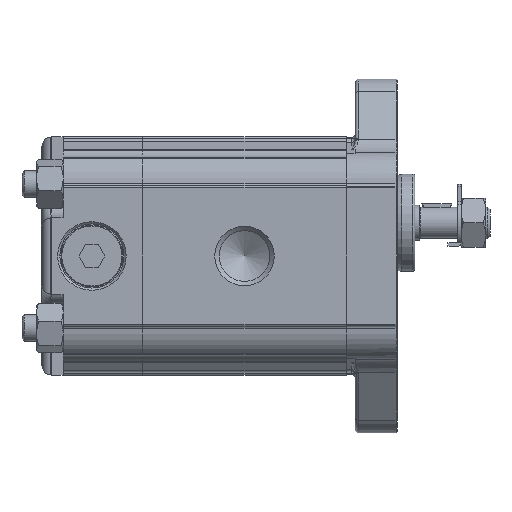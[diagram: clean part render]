
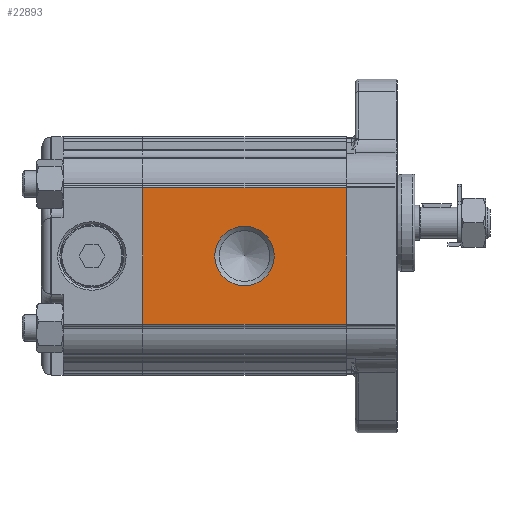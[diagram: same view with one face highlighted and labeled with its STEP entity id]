
A CAD part, left-side view. The second image highlights one B-rep face of the part: STEP entity #22893.
In plain terms, the highlighted planar face has unit normal (-1, 0, 0).
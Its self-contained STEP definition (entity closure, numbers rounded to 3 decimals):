
#1545=LINE('',#34010,#2674);
#1546=LINE('',#34014,#2675);
#1547=LINE('',#34016,#2676);
#1548=LINE('',#34018,#2677);
#2674=VECTOR('',#28045,1000.);
#2675=VECTOR('',#28050,1000.);
#2676=VECTOR('',#28051,1000.);
#2677=VECTOR('',#28052,1000.);
#5837=ORIENTED_EDGE('',*,*,#9193,.T.);
#5838=ORIENTED_EDGE('',*,*,#9194,.F.);
#5839=ORIENTED_EDGE('',*,*,#9192,.F.);
#5840=ORIENTED_EDGE('',*,*,#9195,.T.);
#5841=ORIENTED_EDGE('',*,*,#9196,.T.);
#9192=EDGE_CURVE('',#11058,#11057,#1545,.T.);
#9193=EDGE_CURVE('',#11059,#11059,#12272,.F.);
#9194=EDGE_CURVE('',#11057,#11060,#1546,.T.);
#9195=EDGE_CURVE('',#11058,#11061,#1547,.T.);
#9196=EDGE_CURVE('',#11061,#11060,#1548,.T.);
#11057=VERTEX_POINT('',#34007);
#11058=VERTEX_POINT('',#34009);
#11059=VERTEX_POINT('',#34013);
#11060=VERTEX_POINT('',#34015);
#11061=VERTEX_POINT('',#34017);
#12272=CIRCLE('',#24437,6.723);
#13284=EDGE_LOOP('',(#5837));
#13285=EDGE_LOOP('',(#5838,#5839,#5840,#5841));
#14494=FACE_BOUND('',#13284,.T.);
#14495=FACE_BOUND('',#13285,.T.);
#15284=PLANE('',#24436);
#22893=ADVANCED_FACE('',(#14494,#14495),#15284,.T.);
#24436=AXIS2_PLACEMENT_3D('',#34011,#28046,#28047);
#24437=AXIS2_PLACEMENT_3D('',#34012,#28048,#28049);
#28045=DIRECTION('',(0.,-1.,0.));
#28046=DIRECTION('',(-1.,0.,0.));
#28047=DIRECTION('',(0.,0.,1.));
#28048=DIRECTION('',(-1.,0.,0.));
#28049=DIRECTION('',(0.,0.,1.));
#28050=DIRECTION('',(0.,0.,-1.));
#28051=DIRECTION('',(0.,0.,-1.));
#28052=DIRECTION('',(0.,-1.,0.));
#34007=CARTESIAN_POINT('',(-25.,0.,15.418));
#34009=CARTESIAN_POINT('',(-25.,46.,15.418));
#34010=CARTESIAN_POINT('',(-25.,46.,15.418));
#34011=CARTESIAN_POINT('',(-25.,46.,15.418));
#34012=CARTESIAN_POINT('',(-25.,23.,0.));
#34013=CARTESIAN_POINT('',(-25.,23.,6.723));
#34014=CARTESIAN_POINT('',(-25.,0.,15.418));
#34015=CARTESIAN_POINT('',(-25.,0.,-15.418));
#34016=CARTESIAN_POINT('',(-25.,46.,15.418));
#34017=CARTESIAN_POINT('',(-25.,46.,-15.418));
#34018=CARTESIAN_POINT('',(-25.,46.,-15.418));
